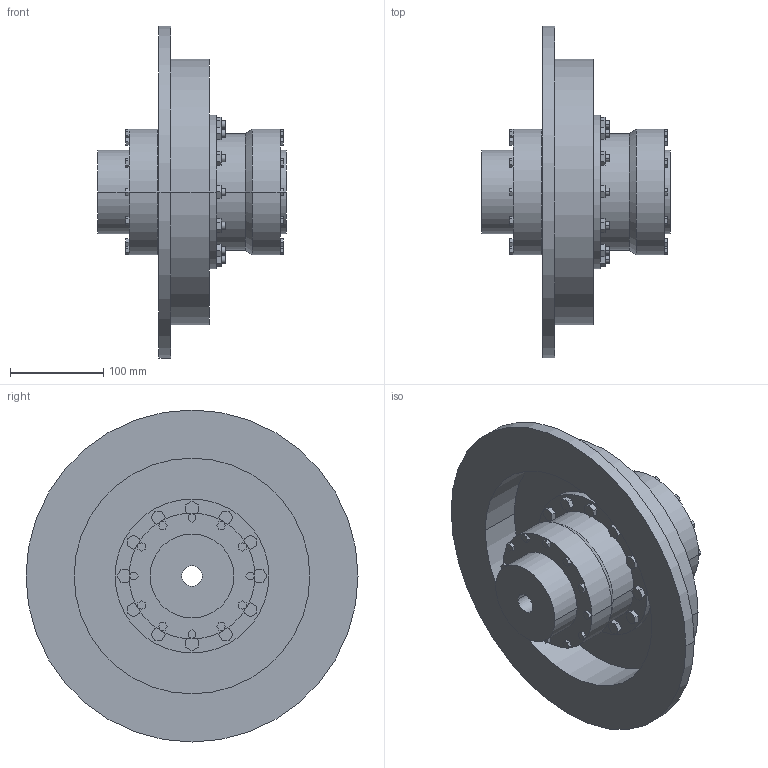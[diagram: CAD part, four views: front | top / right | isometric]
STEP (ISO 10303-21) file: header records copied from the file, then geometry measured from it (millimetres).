
FILE_DESCRIPTION((''),'2;1');
FILE_NAME('A19723900-0_ASM','2019-05-23T',('AB_Roschiwal'),('RENK AG'),'PRO/ENGINEER BY PARAMETRIC TECHNOLOGY CORPORATION, 2015440','PRO/ENGINEER BY PARAMETRIC TECHNOLOGY CORPORATION, 2015440','');
FILE_SCHEMA(('CONFIG_CONTROL_DESIGN'));
Length unit declared in the file: millimetre
Products named in the file (4): SBKT60_GEHAEUSE; SBKT60_NABE; SBKT60_BREMSSCHEIBE; A19723900-0_ASM
Assembly tree (4 placements, depth 2):
  A19723900-0_ASM
    SBKT60_GEHAEUSE
    SBKT60_NABE  x2
    SBKT60_BREMSSCHEIBE
Bounding box: 202 x 356 x 356 mm (x, y, z)
Volume: 3388323.3 mm3; surface area: 558425.1 mm2
Topology: 4 solids, 4 shells, 470 faces, 1156 edges, 768 vertices
Faces by surface type: plane 370, cylinder 96, cone 4
Entity records: 13604 total; most frequent: CARTESIAN_POINT 2350, ORIENTED_EDGE 2264, DIRECTION 2240, EDGE_CURVE 1132, VECTOR 956, LINE 956, VERTEX_POINT 752, AXIS2_PLACEMENT_3D 642
